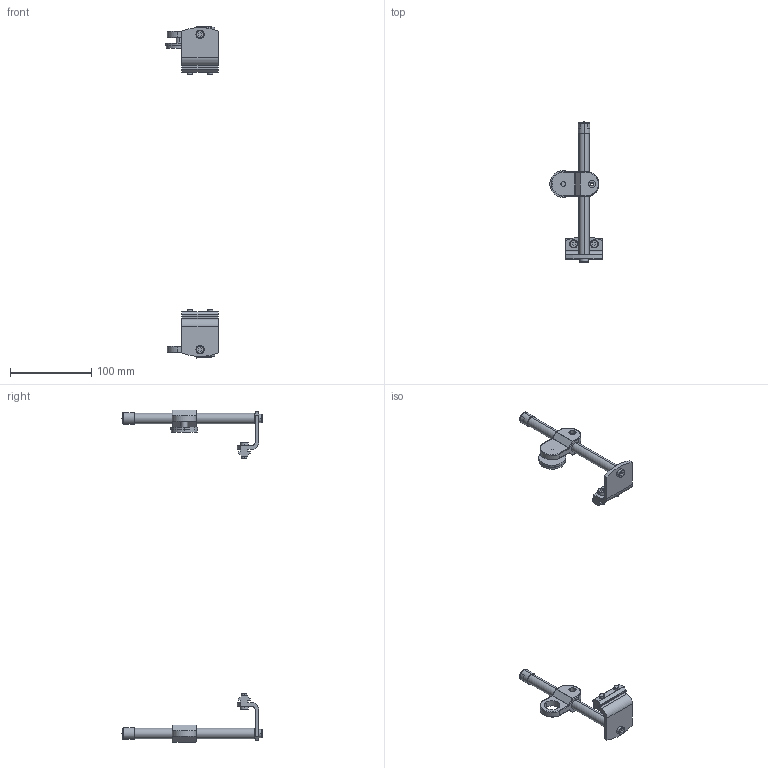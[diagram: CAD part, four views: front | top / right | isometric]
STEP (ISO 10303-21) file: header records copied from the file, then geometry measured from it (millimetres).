
FILE_DESCRIPTION((''),'2;1');
FILE_NAME('75M-PM-2_ASM','2017-04-27T',('jenni.wallner'),(''),'PRO/ENGINEER BY PARAMETRIC TECHNOLOGY CORPORATION, 2012420','PRO/ENGINEER BY PARAMETRIC TECHNOLOGY CORPORATION, 2012420','');
FILE_SCHEMA(('CONFIG_CONTROL_DESIGN'));
Length unit declared in the file: inch
Products named in the file (5): BRACKET_5; PRT0018; PRT0019; ASM0005_ASM; 75M-PM-2_ASM
Assembly tree (5 placements, depth 3):
  75M-PM-2_ASM
    ASM0005_ASM
      BRACKET_5  x2
      PRT0018
      PRT0019
Bounding box: 64.14 x 172.58 x 407.79 mm (x, y, z)
Volume: 110880.1 mm3; surface area: 50854.2 mm2
Topology: 4 solids, 9 shells, 391 faces, 909 edges, 568 vertices
Faces by surface type: plane 158, cylinder 157, cone 40, bspline 20, torus 12, sphere 4
Entity records: 8969 total; most frequent: CARTESIAN_POINT 2891, DIRECTION 1259, ORIENTED_EDGE 1210, EDGE_CURVE 605, AXIS2_PLACEMENT_3D 473, VERTEX_POINT 378, VECTOR 313, LINE 313
